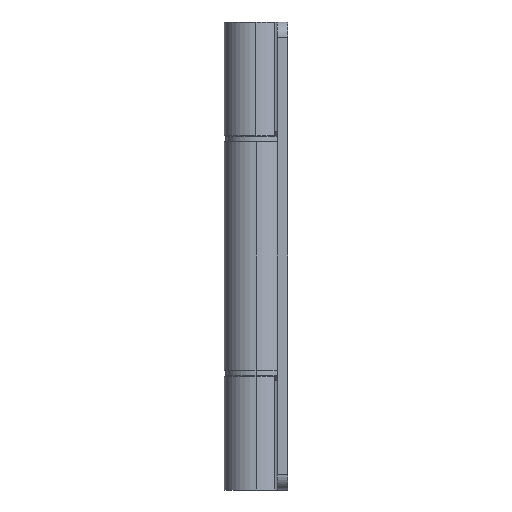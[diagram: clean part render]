
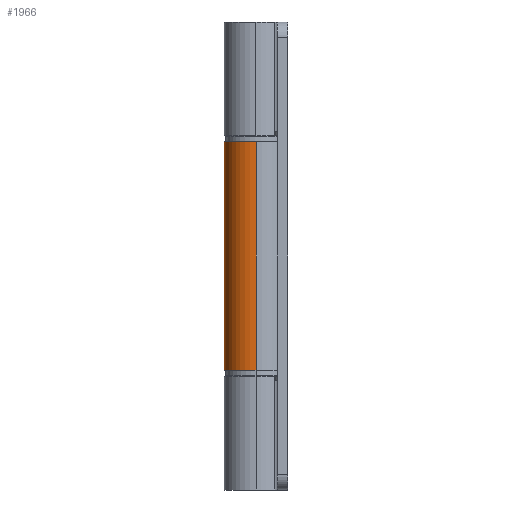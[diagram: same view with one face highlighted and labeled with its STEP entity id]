
A CAD part, left-side view. The second image highlights one B-rep face of the part: STEP entity #1966.
In plain terms, the highlighted cylindrical face has radius 6.1 mm (diameter 12.2 mm), a partial arc.
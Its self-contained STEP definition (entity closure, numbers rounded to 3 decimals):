
#181 = CARTESIAN_POINT ( 'NONE',  ( -6.1, 0., -22. ) ) ;
#249 = CARTESIAN_POINT ( 'NONE',  ( 6.1, 0., 22. ) ) ;
#281 = VECTOR ( 'NONE', #770, 1000. ) ;
#467 = CARTESIAN_POINT ( 'NONE',  ( -6.1, 0., 45. ) ) ;
#541 = AXIS2_PLACEMENT_3D ( 'NONE', #560, #3192, #1547 ) ;
#560 = CARTESIAN_POINT ( 'NONE',  ( 0., 0., 22. ) ) ;
#604 = DIRECTION ( 'NONE',  ( 1., 0., 0. ) ) ;
#619 = AXIS2_PLACEMENT_3D ( 'NONE', #3919, #1220, #604 ) ;
#770 = DIRECTION ( 'NONE',  ( 0., 0., -1. ) ) ;
#1068 = DIRECTION ( 'NONE',  ( -1., 0., 0. ) ) ;
#1220 = DIRECTION ( 'NONE',  ( 0., 0., 1. ) ) ;
#1247 = LINE ( 'NONE', #1920, #1709 ) ;
#1396 = EDGE_CURVE ( 'NONE', #3070, #3328, #3508, .T. ) ;
#1406 = EDGE_CURVE ( 'NONE', #3328, #1605, #1247, .T. ) ;
#1421 = EDGE_LOOP ( 'NONE', ( #2873, #2306, #1446, #3320 ) ) ;
#1446 = ORIENTED_EDGE ( 'NONE', *, *, #2586, .T. ) ;
#1547 = DIRECTION ( 'NONE',  ( -1., 0., 0. ) ) ;
#1605 = VERTEX_POINT ( 'NONE', #3042 ) ;
#1709 = VECTOR ( 'NONE', #2562, 1000. ) ;
#1711 = CYLINDRICAL_SURFACE ( 'NONE', #1925, 6.1 ) ;
#1920 = CARTESIAN_POINT ( 'NONE',  ( 6.1, 0., 45. ) ) ;
#1925 = AXIS2_PLACEMENT_3D ( 'NONE', #4024, #2775, #1068 ) ;
#1966 = ADVANCED_FACE ( 'NONE', ( #2751 ), #1711, .T. ) ;
#2013 = EDGE_CURVE ( 'NONE', #3070, #2104, #4065, .T. ) ;
#2104 = VERTEX_POINT ( 'NONE', #181 ) ;
#2306 = ORIENTED_EDGE ( 'NONE', *, *, #1406, .T. ) ;
#2562 = DIRECTION ( 'NONE',  ( 0., 0., -1. ) ) ;
#2586 = EDGE_CURVE ( 'NONE', #1605, #2104, #2895, .T. ) ;
#2705 = CARTESIAN_POINT ( 'NONE',  ( -6.1, 0., 22. ) ) ;
#2751 = FACE_OUTER_BOUND ( 'NONE', #1421, .T. ) ;
#2775 = DIRECTION ( 'NONE',  ( 0., 0., -1. ) ) ;
#2873 = ORIENTED_EDGE ( 'NONE', *, *, #1396, .T. ) ;
#2895 = CIRCLE ( 'NONE', #619, 6.1 ) ;
#3042 = CARTESIAN_POINT ( 'NONE',  ( 6.1, 0., -22. ) ) ;
#3070 = VERTEX_POINT ( 'NONE', #2705 ) ;
#3192 = DIRECTION ( 'NONE',  ( 0., 0., -1. ) ) ;
#3320 = ORIENTED_EDGE ( 'NONE', *, *, #2013, .F. ) ;
#3328 = VERTEX_POINT ( 'NONE', #249 ) ;
#3508 = CIRCLE ( 'NONE', #541, 6.1 ) ;
#3919 = CARTESIAN_POINT ( 'NONE',  ( 0., 0., -22. ) ) ;
#4024 = CARTESIAN_POINT ( 'NONE',  ( 0., 0., 45. ) ) ;
#4065 = LINE ( 'NONE', #467, #281 ) ;
